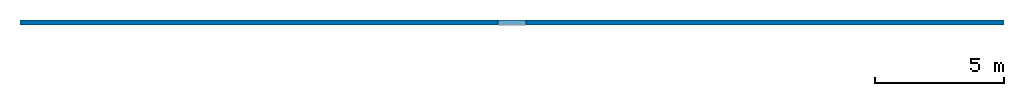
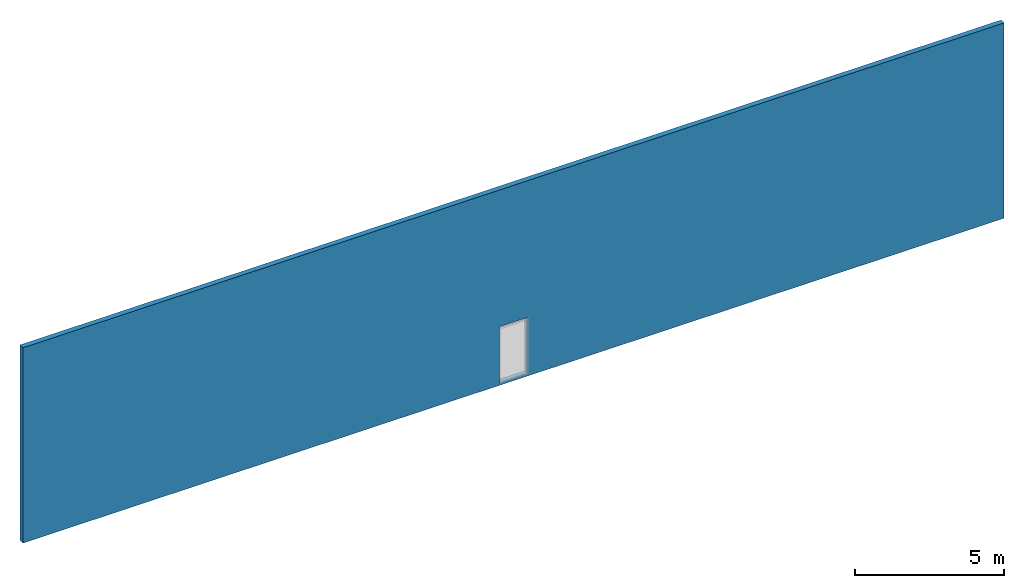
# One storey, part 1 of 2: 1 wall, 1 opening.
"""IFC2X3 building model written with IfcOpenShell, lengths in millimetres."""

from ifc_helpers import new_model, entity, si_unit, converted_unit, derived_unit, direction, frame, frame_2d, origin, place, context, subcontext, project, spatial, rectangle, extrude, material, layer, layer_set, layer_usage, type_object, element, save


model = new_model("IFC2X3")

# Units and contexts
model_context = context("Model", 3, precision=0.01, world=origin(), true_north=direction((6.12303176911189e-17, 1.0)))
body_context = subcontext(model_context, "Body", "Model", "MODEL_VIEW")
ifc_project = project(units=[si_unit("LENGTHUNIT", "METRE", prefix="MILLI"), si_unit("AREAUNIT", "SQUARE_METRE"), si_unit("VOLUMEUNIT", "CUBIC_METRE"), converted_unit("PLANEANGLEUNIT", "DEGREE", entity("IfcRatioMeasure", 0.0174532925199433), si_unit("PLANEANGLEUNIT", "RADIAN"), dimensions=[0, 0, 0, 0, 0, 0, 0]), si_unit("MASSUNIT", "GRAM", prefix="KILO"), derived_unit("MASSDENSITYUNIT", [(si_unit("MASSUNIT", "GRAM", prefix="KILO"), 1), (si_unit("LENGTHUNIT", "METRE"), -3)]), si_unit("TIMEUNIT", "SECOND"), si_unit("FREQUENCYUNIT", "HERTZ"), si_unit("THERMODYNAMICTEMPERATUREUNIT", "DEGREE_CELSIUS"), derived_unit("THERMALTRANSMITTANCEUNIT", [(si_unit("MASSUNIT", "GRAM", prefix="KILO"), 1), (si_unit("THERMODYNAMICTEMPERATUREUNIT", "KELVIN"), -1), (si_unit("TIMEUNIT", "SECOND"), -3)]), derived_unit("VOLUMETRICFLOWRATEUNIT", [(si_unit("LENGTHUNIT", "METRE"), 3), (si_unit("TIMEUNIT", "SECOND"), -1)]), si_unit("ELECTRICCURRENTUNIT", "AMPERE"), si_unit("ELECTRICVOLTAGEUNIT", "VOLT"), si_unit("POWERUNIT", "WATT"), si_unit("FORCEUNIT", "NEWTON", prefix="KILO"), si_unit("ILLUMINANCEUNIT", "LUX"), si_unit("LUMINOUSFLUXUNIT", "LUMEN"), si_unit("LUMINOUSINTENSITYUNIT", "CANDELA"), derived_unit("USERDEFINED", [(si_unit("MASSUNIT", "GRAM", prefix="KILO"), -1), (si_unit("LENGTHUNIT", "METRE"), -2), (si_unit("TIMEUNIT", "SECOND"), 3), (si_unit("LUMINOUSFLUXUNIT", "LUMEN"), 1)]), derived_unit("LINEARVELOCITYUNIT", [(si_unit("LENGTHUNIT", "METRE"), 1), (si_unit("TIMEUNIT", "SECOND"), -1)]), si_unit("PRESSUREUNIT", "PASCAL"), derived_unit("USERDEFINED", [(si_unit("LENGTHUNIT", "METRE"), -2), (si_unit("MASSUNIT", "GRAM", prefix="KILO"), 1), (si_unit("TIMEUNIT", "SECOND"), -2)])], contexts=[model_context])

# Site, building, storey
site_placement = place(None, origin())
site = spatial("IfcSite", under=ifc_project, at=site_placement, Name="Default", CompositionType="ELEMENT")
building_placement = place(site_placement, origin())
building = spatial("IfcBuilding", under=site, at=building_placement, CompositionType="ELEMENT")
storey_placement = place(building_placement, origin())
storey = spatial("IfcBuildingStorey", under=building, at=storey_placement, Name="Nivel 1", CompositionType="ELEMENT", Elevation=0.0)

# Wall, opening
ifc_material = material(Name="Muro por defecto")
ifc_layer = layer(ifc_material, 200.0)
ifc_layer_set = layer_set([ifc_layer], Name="Muro básico:Genérico - 200 mm")
ifc_layer_usage = layer_usage(ifc_layer_set, "AXIS2", "NEGATIVE", 100.0)
wall_type = type_object("IfcWallType", Name="Muro básico:Genérico - 200 mm", PredefinedType="STANDARD", material=ifc_layer_set)
wall_placement = place(storey_placement, frame((-18016.5851135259, 35.5755953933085, 0.0)))
wall = element("IfcWallStandardCase", 1, at=wall_placement, inside=storey, type_object=wall_type, material=ifc_layer_usage, Name="Muro básico:Genérico - 200 mm", ObjectType="Muro básico:Genérico - 200 mm:398", context=body_context, shape_type="SweptSolid", body=[
    extrude(rectangle(XDim=38000.0, YDim=200.0, at=frame_2d((19000.0, 0.0), x_axis=(-1.0, 0.0))), origin(), (0.0, 0.0, 1.0), 8000.0),
])
opening_placement = place(wall_placement, origin())
element("IfcOpeningElement", 2, at=opening_placement, cuts=wall, Name="Muro básico:Genérico - 200 mm", ObjectType="Opening", context=body_context, shape_type="SweptSolid", body=[
    extrude(rectangle(XDim=2300.0, YDim=1100.0, at=frame_2d((0.0, -5.6843418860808e-14), x_axis=(1.0, 0.0))), frame((19000.0, -1624.0, 1250.0), z_axis=(0.0, 1.0, 0.0), x_axis=(0.0, 0.0, 1.0)), (0.0, 0.0, 1.0), 3048.0),
])

save(model, "model.ifc")
